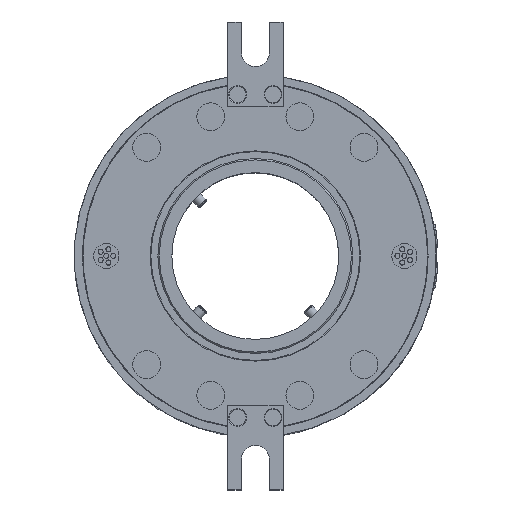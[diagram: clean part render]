
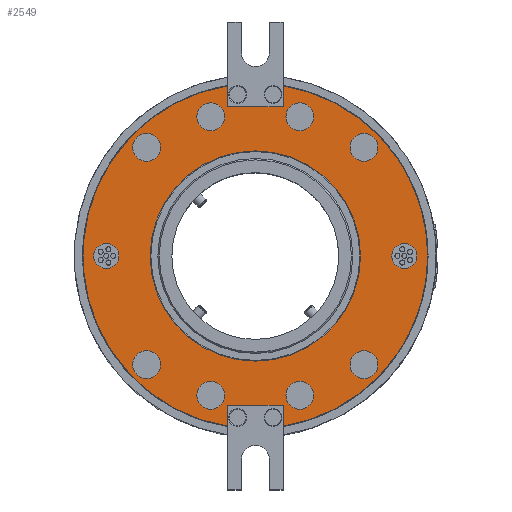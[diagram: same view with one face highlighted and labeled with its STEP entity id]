
A CAD part, top view. The second image highlights one B-rep face of the part: STEP entity #2549.
In plain terms, the highlighted planar face has unit normal (0, 0, 1).
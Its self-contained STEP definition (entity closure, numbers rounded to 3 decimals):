
#523=LINE('',#18673,#862);
#526=LINE('',#18682,#865);
#540=LINE('',#18712,#879);
#542=LINE('',#18715,#881);
#555=LINE('',#18745,#894);
#559=LINE('',#18752,#898);
#862=VECTOR('',#14510,1.);
#865=VECTOR('',#14521,1.);
#879=VECTOR('',#14549,1.);
#881=VECTOR('',#14553,1.);
#894=VECTOR('',#14586,1.);
#898=VECTOR('',#14592,1.);
#1412=PLANE('',#13541);
#2549=ADVANCED_FACE('',(#4965,#4966,#4967,#4968,#4969,#4970,#4971,#4972,
#4973,#4974,#4975,#4976),#1412,.T.);
#4965=FACE_BOUND('',#5417,.T.);
#4966=FACE_BOUND('',#5418,.T.);
#4967=FACE_BOUND('',#5419,.T.);
#4968=FACE_BOUND('',#5420,.T.);
#4969=FACE_BOUND('',#5421,.T.);
#4970=FACE_BOUND('',#5422,.T.);
#4971=FACE_BOUND('',#5423,.T.);
#4972=FACE_BOUND('',#5424,.T.);
#4973=FACE_BOUND('',#5425,.T.);
#4974=FACE_BOUND('',#5426,.T.);
#4975=FACE_BOUND('',#5427,.T.);
#4976=FACE_BOUND('',#5428,.T.);
#5417=EDGE_LOOP('',(#7228,#7229,#7230,#7231,#7232,#7233,#7234,#7235));
#5418=EDGE_LOOP('',(#7236));
#5419=EDGE_LOOP('',(#7237));
#5420=EDGE_LOOP('',(#7238));
#5421=EDGE_LOOP('',(#7239));
#5422=EDGE_LOOP('',(#7240));
#5423=EDGE_LOOP('',(#7241));
#5424=EDGE_LOOP('',(#7242));
#5425=EDGE_LOOP('',(#7243));
#5426=EDGE_LOOP('',(#7244));
#5427=EDGE_LOOP('',(#7245));
#5428=EDGE_LOOP('',(#7246));
#7228=ORIENTED_EDGE('',*,*,#11578,.T.);
#7229=ORIENTED_EDGE('',*,*,#11595,.T.);
#7230=ORIENTED_EDGE('',*,*,#11576,.F.);
#7231=ORIENTED_EDGE('',*,*,#11615,.T.);
#7232=ORIENTED_EDGE('',*,*,#11573,.T.);
#7233=ORIENTED_EDGE('',*,*,#11611,.T.);
#7234=ORIENTED_EDGE('',*,*,#11577,.F.);
#7235=ORIENTED_EDGE('',*,*,#11593,.T.);
#7236=ORIENTED_EDGE('',*,*,#12029,.T.);
#7237=ORIENTED_EDGE('',*,*,#11572,.T.);
#7238=ORIENTED_EDGE('',*,*,#11571,.T.);
#7239=ORIENTED_EDGE('',*,*,#11570,.T.);
#7240=ORIENTED_EDGE('',*,*,#11569,.T.);
#7241=ORIENTED_EDGE('',*,*,#11568,.T.);
#7242=ORIENTED_EDGE('',*,*,#11567,.T.);
#7243=ORIENTED_EDGE('',*,*,#11566,.T.);
#7244=ORIENTED_EDGE('',*,*,#11565,.T.);
#7245=ORIENTED_EDGE('',*,*,#11564,.T.);
#7246=ORIENTED_EDGE('',*,*,#11563,.T.);
#10074=VERTEX_POINT('',#17389);
#10075=VERTEX_POINT('',#17390);
#10078=VERTEX_POINT('',#17398);
#10079=VERTEX_POINT('',#17399);
#10170=VERTEX_POINT('',#18644);
#10171=VERTEX_POINT('',#18647);
#10172=VERTEX_POINT('',#18650);
#10173=VERTEX_POINT('',#18653);
#10174=VERTEX_POINT('',#18656);
#10175=VERTEX_POINT('',#18659);
#10176=VERTEX_POINT('',#18662);
#10177=VERTEX_POINT('',#18665);
#10178=VERTEX_POINT('',#18668);
#10179=VERTEX_POINT('',#18671);
#10180=VERTEX_POINT('',#18674);
#10181=VERTEX_POINT('',#18675);
#10182=VERTEX_POINT('',#18683);
#10183=VERTEX_POINT('',#18684);
#10612=VERTEX_POINT('',#22653);
#11563=EDGE_CURVE('',#10170,#10170,#13213,.T.);
#11564=EDGE_CURVE('',#10171,#10171,#13214,.T.);
#11565=EDGE_CURVE('',#10172,#10172,#13215,.T.);
#11566=EDGE_CURVE('',#10173,#10173,#13216,.T.);
#11567=EDGE_CURVE('',#10174,#10174,#13217,.T.);
#11568=EDGE_CURVE('',#10175,#10175,#13218,.T.);
#11569=EDGE_CURVE('',#10176,#10176,#13219,.T.);
#11570=EDGE_CURVE('',#10177,#10177,#13220,.T.);
#11571=EDGE_CURVE('',#10178,#10178,#13221,.T.);
#11572=EDGE_CURVE('',#10179,#10179,#13222,.T.);
#11573=EDGE_CURVE('',#10180,#10181,#523,.T.);
#11576=EDGE_CURVE('',#10079,#10074,#13223,.T.);
#11577=EDGE_CURVE('',#10075,#10078,#13224,.T.);
#11578=EDGE_CURVE('',#10182,#10183,#526,.T.);
#11593=EDGE_CURVE('',#10075,#10182,#540,.T.);
#11595=EDGE_CURVE('',#10183,#10074,#542,.T.);
#11611=EDGE_CURVE('',#10181,#10078,#555,.T.);
#11615=EDGE_CURVE('',#10079,#10180,#559,.T.);
#12029=EDGE_CURVE('',#10612,#10612,#13229,.T.);
#13213=CIRCLE('',#13496,4.5);
#13214=CIRCLE('',#13498,5.);
#13215=CIRCLE('',#13500,5.);
#13216=CIRCLE('',#13502,5.);
#13217=CIRCLE('',#13504,5.);
#13218=CIRCLE('',#13506,4.5);
#13219=CIRCLE('',#13508,5.);
#13220=CIRCLE('',#13510,5.);
#13221=CIRCLE('',#13512,5.);
#13222=CIRCLE('',#13514,5.);
#13223=CIRCLE('',#13517,61.9);
#13224=CIRCLE('',#13518,61.9);
#13229=CIRCLE('',#13540,37.75);
#13496=AXIS2_PLACEMENT_3D('',#18643,#14470,#14471);
#13498=AXIS2_PLACEMENT_3D('',#18646,#14474,#14475);
#13500=AXIS2_PLACEMENT_3D('',#18649,#14478,#14479);
#13502=AXIS2_PLACEMENT_3D('',#18652,#14482,#14483);
#13504=AXIS2_PLACEMENT_3D('',#18655,#14486,#14487);
#13506=AXIS2_PLACEMENT_3D('',#18658,#14490,#14491);
#13508=AXIS2_PLACEMENT_3D('',#18661,#14494,#14495);
#13510=AXIS2_PLACEMENT_3D('',#18664,#14498,#14499);
#13512=AXIS2_PLACEMENT_3D('',#18667,#14502,#14503);
#13514=AXIS2_PLACEMENT_3D('',#18670,#14506,#14507);
#13517=AXIS2_PLACEMENT_3D('',#18679,#14515,#14516);
#13518=AXIS2_PLACEMENT_3D('',#18680,#14517,#14518);
#13540=AXIS2_PLACEMENT_3D('',#22652,#14640,#14641);
#13541=AXIS2_PLACEMENT_3D('',#22654,#14642,#14643);
#14470=DIRECTION('',(0.,0.,-1.));
#14471=DIRECTION('',(-1.,0.,0.));
#14474=DIRECTION('',(0.,0.,-1.));
#14475=DIRECTION('',(1.,0.,0.));
#14478=DIRECTION('',(0.,0.,-1.));
#14479=DIRECTION('',(1.,0.,0.));
#14482=DIRECTION('',(0.,0.,-1.));
#14483=DIRECTION('',(1.,0.,0.));
#14486=DIRECTION('',(0.,0.,-1.));
#14487=DIRECTION('',(1.,0.,0.));
#14490=DIRECTION('',(0.,0.,-1.));
#14491=DIRECTION('',(1.,0.,0.));
#14494=DIRECTION('',(0.,0.,-1.));
#14495=DIRECTION('',(1.,0.,0.));
#14498=DIRECTION('',(0.,0.,-1.));
#14499=DIRECTION('',(1.,0.,0.));
#14502=DIRECTION('',(0.,0.,-1.));
#14503=DIRECTION('',(1.,0.,0.));
#14506=DIRECTION('',(0.,0.,-1.));
#14507=DIRECTION('',(1.,0.,0.));
#14510=DIRECTION('',(1.,0.,0.));
#14515=DIRECTION('',(0.,0.,-1.));
#14516=DIRECTION('',(1.,0.,0.));
#14517=DIRECTION('',(0.,0.,-1.));
#14518=DIRECTION('',(1.,0.,0.));
#14521=DIRECTION('',(-1.,0.,0.));
#14549=DIRECTION('',(0.,-1.,0.));
#14553=DIRECTION('',(0.,1.,0.));
#14586=DIRECTION('',(0.,-1.,0.));
#14592=DIRECTION('',(0.,1.,0.));
#14640=DIRECTION('',(0.,0.,-1.));
#14641=DIRECTION('',(1.,0.,0.));
#14642=DIRECTION('',(0.,0.,1.));
#14643=DIRECTION('',(1.,0.,0.));
#17389=CARTESIAN_POINT('',(-10.,61.087,84.4));
#17390=CARTESIAN_POINT('',(10.,61.087,84.4));
#17398=CARTESIAN_POINT('',(10.,-61.087,84.4));
#17399=CARTESIAN_POINT('',(-10.,-61.087,84.4));
#18643=CARTESIAN_POINT('',(-53.5,0.,84.4));
#18644=CARTESIAN_POINT('',(-58.,0.,84.4));
#18646=CARTESIAN_POINT('',(-39.,39.,84.4));
#18647=CARTESIAN_POINT('',(-34.,39.,84.4));
#18649=CARTESIAN_POINT('',(-16.,50.,84.4));
#18650=CARTESIAN_POINT('',(-11.,50.,84.4));
#18652=CARTESIAN_POINT('',(16.,50.,84.4));
#18653=CARTESIAN_POINT('',(21.,50.,84.4));
#18655=CARTESIAN_POINT('',(39.,39.,84.4));
#18656=CARTESIAN_POINT('',(44.,39.,84.4));
#18658=CARTESIAN_POINT('',(53.5,0.,84.4));
#18659=CARTESIAN_POINT('',(58.,0.,84.4));
#18661=CARTESIAN_POINT('',(39.,-39.,84.4));
#18662=CARTESIAN_POINT('',(44.,-39.,84.4));
#18664=CARTESIAN_POINT('',(16.,-50.,84.4));
#18665=CARTESIAN_POINT('',(21.,-50.,84.4));
#18667=CARTESIAN_POINT('',(-16.,-50.,84.4));
#18668=CARTESIAN_POINT('',(-11.,-50.,84.4));
#18670=CARTESIAN_POINT('',(-39.,-39.,84.4));
#18671=CARTESIAN_POINT('',(-34.,-39.,84.4));
#18673=CARTESIAN_POINT('',(-10.,-53.5,84.4));
#18674=CARTESIAN_POINT('',(-10.,-53.5,84.4));
#18675=CARTESIAN_POINT('',(10.,-53.5,84.4));
#18679=CARTESIAN_POINT('',(0.,0.,
84.4));
#18680=CARTESIAN_POINT('',(0.,0.,
84.4));
#18682=CARTESIAN_POINT('',(10.,53.5,84.4));
#18683=CARTESIAN_POINT('',(10.,53.5,84.4));
#18684=CARTESIAN_POINT('',(-10.,53.5,84.4));
#18712=CARTESIAN_POINT('',(10.,84.,84.4));
#18715=CARTESIAN_POINT('',(-10.,53.5,84.4));
#18745=CARTESIAN_POINT('',(10.,-53.5,84.4));
#18752=CARTESIAN_POINT('',(-10.,-84.,84.4));
#22652=CARTESIAN_POINT('',(0.,0.,84.4));
#22653=CARTESIAN_POINT('',(37.75,0.,84.4));
#22654=CARTESIAN_POINT('',(0.,0.,
84.4));
